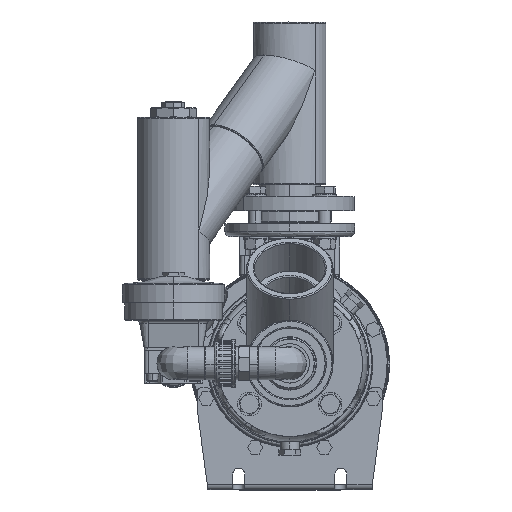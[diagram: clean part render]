
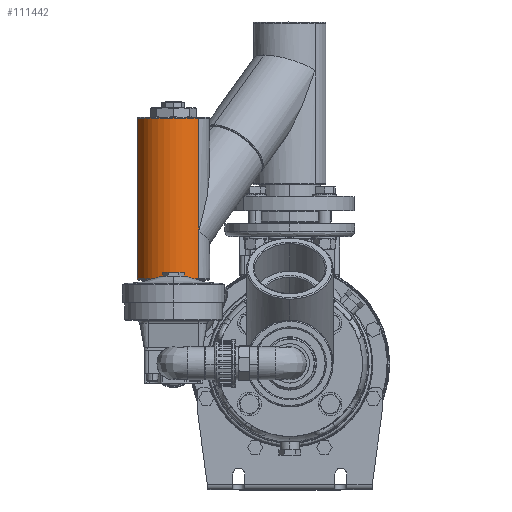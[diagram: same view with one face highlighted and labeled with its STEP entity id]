
A CAD part, top view. The second image highlights one B-rep face of the part: STEP entity #111442.
In plain terms, the highlighted cylindrical face has radius 46 mm (diameter 92 mm), a partial arc.
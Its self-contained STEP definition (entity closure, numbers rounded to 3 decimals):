
#21615 = EDGE_CURVE ( 'NONE', #27517, #27163, #71461, .T. ) ;
#27025 = VERTEX_POINT ( 'NONE', #40194 ) ;
#27026 = EDGE_CURVE ( 'NONE', #27025, #27057, #40427, .T. ) ;
#27057 = VERTEX_POINT ( 'NONE', #40510 ) ;
#27131 = VERTEX_POINT ( 'NONE', #41038 ) ;
#27153 = EDGE_CURVE ( 'NONE', #27163, #27131, #41085, .T. ) ;
#27163 = VERTEX_POINT ( 'NONE', #41339 ) ;
#27483 = EDGE_CURVE ( 'NONE', #27540, #27131, #45845, .T. ) ;
#27490 = EDGE_CURVE ( 'NONE', #27057, #27517, #45835, .T. ) ;
#27517 = VERTEX_POINT ( 'NONE', #46022 ) ;
#27530 = EDGE_CURVE ( 'NONE', #27025, #27540, #46250, .T. ) ;
#27540 = VERTEX_POINT ( 'NONE', #46369 ) ;
#40194 = CARTESIAN_POINT ( 'NONE',  ( -499.683, 423.726, 458.887 ) ) ;
#40406 = DIRECTION ( 'NONE',  ( -0.697, 0., -0.717 ) ) ;
#40408 = DIRECTION ( 'NONE',  ( 0., -1., 0. ) ) ;
#40410 = CARTESIAN_POINT ( 'NONE',  ( -531.758, 423.726, 425.914 ) ) ;
#40411 = AXIS2_PLACEMENT_3D ( 'NONE', #40410, #40408, #40406 ) ;
#40427 = CIRCLE ( 'NONE', #40411, 46. ) ;
#40510 = CARTESIAN_POINT ( 'NONE',  ( -563.833, 423.726, 392.942 ) ) ;
#41038 = CARTESIAN_POINT ( 'NONE',  ( -499.683, 219.276, 458.887 ) ) ;
#41085 = CIRCLE ( 'NONE', #41199, 46. ) ;
#41199 = AXIS2_PLACEMENT_3D ( 'NONE', #41357, #41354, #41353 ) ;
#41339 = CARTESIAN_POINT ( 'NONE',  ( -563.833, 219.276, 392.942 ) ) ;
#41353 = DIRECTION ( 'NONE',  ( -0.697, 0., -0.717 ) ) ;
#41354 = DIRECTION ( 'NONE',  ( 0., 1., 0. ) ) ;
#41357 = CARTESIAN_POINT ( 'NONE',  ( -531.758, 219.276, 425.914 ) ) ;
#45782 = DIRECTION ( 'NONE',  ( 0., -1., 0. ) ) ;
#45783 = VECTOR ( 'NONE', #45782, 1000. ) ;
#45785 = CARTESIAN_POINT ( 'NONE',  ( -563.833, 321.501, 392.942 ) ) ;
#45832 = DIRECTION ( 'NONE',  ( 0., -1., 0. ) ) ;
#45834 = VECTOR ( 'NONE', #45832, 1000. ) ;
#45835 = LINE ( 'NONE', #45785, #45783 ) ;
#45844 = CARTESIAN_POINT ( 'NONE',  ( -499.683, 321.501, 458.887 ) ) ;
#45845 = LINE ( 'NONE', #45844, #45834 ) ;
#46022 = CARTESIAN_POINT ( 'NONE',  ( -563.833, 279.001, 392.942 ) ) ;
#46225 = DIRECTION ( 'NONE',  ( 0., -1., 0. ) ) ;
#46227 = VECTOR ( 'NONE', #46225, 1000. ) ;
#46237 = CARTESIAN_POINT ( 'NONE',  ( -499.683, 321.501, 458.887 ) ) ;
#46250 = LINE ( 'NONE', #46237, #46227 ) ;
#46369 = CARTESIAN_POINT ( 'NONE',  ( -499.683, 279.001, 458.887 ) ) ;
#71457 = DIRECTION ( 'NONE',  ( 0., -1., 0. ) ) ;
#71459 = VECTOR ( 'NONE', #71457, 1000. ) ;
#71460 = CARTESIAN_POINT ( 'NONE',  ( -563.833, 321.501, 392.942 ) ) ;
#71461 = LINE ( 'NONE', #71460, #71459 ) ;
#108520 = AXIS2_PLACEMENT_3D ( 'NONE', #108627, #108638, #108625 ) ;
#108554 = CYLINDRICAL_SURFACE ( 'NONE', #108520, 46. ) ;
#108625 = DIRECTION ( 'NONE',  ( -0.697, 0., -0.717 ) ) ;
#108627 = CARTESIAN_POINT ( 'NONE',  ( -531.758, 321.501, 425.914 ) ) ;
#108638 = DIRECTION ( 'NONE',  ( 0., -1., 0. ) ) ;
#108639 = FACE_OUTER_BOUND ( 'NONE', #111095, .T. ) ;
#111095 = EDGE_LOOP ( 'NONE', ( #111107, #111391, #111417, #111404, #111416, #111414 ) ) ;
#111107 = ORIENTED_EDGE ( 'NONE', *, *, #27530, .F. ) ;
#111391 = ORIENTED_EDGE ( 'NONE', *, *, #27026, .T. ) ;
#111404 = ORIENTED_EDGE ( 'NONE', *, *, #21615, .T. ) ;
#111414 = ORIENTED_EDGE ( 'NONE', *, *, #27483, .F. ) ;
#111416 = ORIENTED_EDGE ( 'NONE', *, *, #27153, .T. ) ;
#111417 = ORIENTED_EDGE ( 'NONE', *, *, #27490, .T. ) ;
#111442 = ADVANCED_FACE ( 'NONE', ( #108639 ), #108554, .T. ) ;
